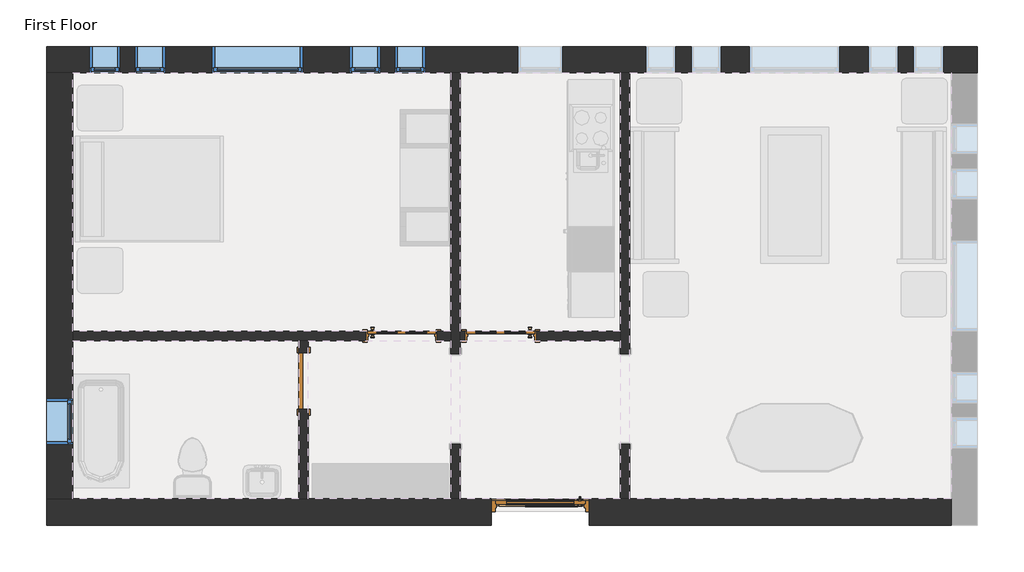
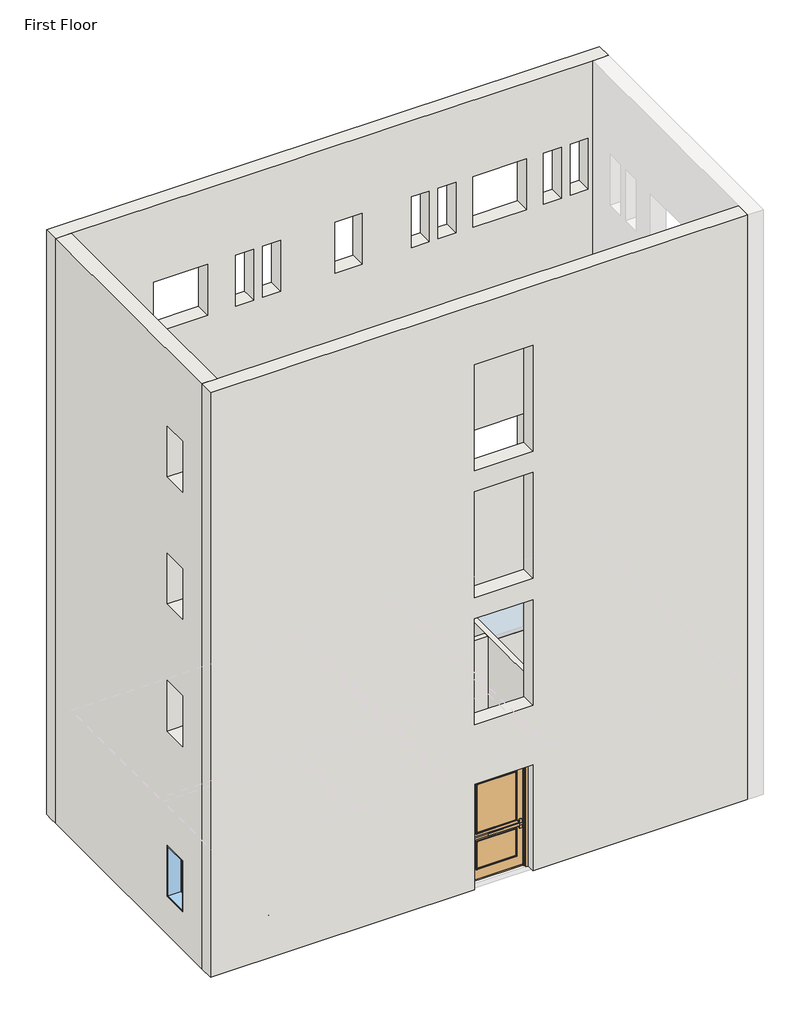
# One storey, part 1 of 2: 7 walls, 6 windows, 4 doors.
"""IFC4 building model written with IfcOpenShell, lengths in millimetres."""

from ifc_helpers import new_model, si_unit, frame, origin, place, context, project, spatial, polyline, outline, extrude, faceted_brep, transform, mapped, element, save
from components import door_734823c0, door_3a280f7b, door_48307b55, door_4d6c7550, window_da97879f, window_d61ef850, window_60baf983, window_6eb97611

model = new_model("IFC4")

# Units and contexts
model_context = context("Model", 3, world=origin())
ifc_project = project(units=[si_unit("LENGTHUNIT", "METRE", prefix="MILLI")], contexts=[model_context])

# Site, building, storey
site = spatial("IfcSite", under=ifc_project)
building = spatial("IfcBuilding", under=site)
storey = spatial("IfcBuildingStorey", under=building, Name="First Floor", Elevation=-914.4)

# Doors
placement = place(None, origin())
door_shape = door_734823c0(model_context)
element("IfcDoor", 1, ObjectType="Door-Exterior-Single-Two_Lite : 48\" x 96\"", at=placement, inside=storey, context=model_context, shape_type="MappedRepresentation", body=[
    mapped(door_shape, transform((-9720.1844712, 1685.5066174, -914.4), x_axis=(-1.0, 0.0, 0.0), y_axis=(0.0, -1.0, 0.0), z_axis=(0.0, 0.0, 1.0))),
])
door_2_shape = door_3a280f7b(model_context)
element("IfcDoor", 2, ObjectType="Door-Interior-Single-4_Panel-Wood : 36\" x 84\"", at=placement, inside=storey, context=model_context, shape_type="MappedRepresentation", body=[
    mapped(door_2_shape, transform((-10253.5844712, 4068.3441174, -914.4), x_axis=(-1.0, 0.0, 0.0), y_axis=(0.0, -1.0, 0.0), z_axis=(0.0, 0.0, 1.0))),
])
door_3_shape = door_48307b55(model_context)
element("IfcDoor", 3, ObjectType="Door-Interior-Single-4_Panel-Wood : 36\" x 84\"", at=placement, inside=storey, context=model_context, shape_type="MappedRepresentation", body=[
    mapped(door_3_shape, transform((-11588.6719712, 4068.3441174, -914.4), x_axis=(1.0, 0.0, 0.0), y_axis=(0.0, 1.0, 0.0), z_axis=(0.0, 0.0, 1.0))),
])
door_4_shape = door_4d6c7550(model_context)
element("IfcDoor", 4, ObjectType="Single-Flush : 30\" x 84\"", at=placement, inside=storey, context=model_context, shape_type="MappedRepresentation", body=[
    mapped(door_4_shape, transform((-12909.4719712, 3455.5691174, -914.4), x_axis=(0.0, 1.0, 0.0), y_axis=(-1.0, 0.0, 0.0), z_axis=(0.0, 0.0, 1.0))),
])

# Walls
element("IfcWall", 5, ObjectType="Exterior - Brick on Mtl. Stud", at=placement, inside=storey, context=model_context, shape_type="Brep", body=[
    faceted_brep([(-16373.3969712, 7611.6441174, -914.4), (-16186.0719712, 7611.6441174, -914.4), (-16020.9719712, 7611.6441174, -914.4), (-10926.6844712, 7611.6441174, -914.4), (-10799.6844712, 7611.6441174, -914.4), (-8640.6844712, 7611.6441174, -914.4), (-8513.6844712, 7611.6441174, -914.4), (-4181.3969712, 7611.6441174, -914.4), (-4016.2969712, 7611.6441174, -914.4), (-3828.9719712, 7611.6441174, -914.4), (-3828.9719712, 7611.6441174, 13106.4), (-4181.3969712, 7611.6441174, 13106.4), (-8513.6844712, 7611.6441174, 13106.4), (-8640.6844712, 7611.6441174, 13106.4), (-10799.6844712, 7611.6441174, 13106.4), (-10926.6844712, 7611.6441174, 13106.4), (-16020.9719712, 7611.6441174, 13106.4), (-16373.3969712, 7611.6441174, 13106.4), (-10024.9844712, 7611.6441174, 1219.2), (-9415.3844712, 7611.6441174, 1219.2), (-9415.3844712, 7611.6441174, 0.0), (-10024.9844712, 7611.6441174, 0.0), (-14139.7844712, 7611.6441174, 1219.2), (-12920.5844712, 7611.6441174, 1219.2), (-12920.5844712, 7611.6441174, 0.0), (-14139.7844712, 7611.6441174, 0.0), (-6900.7844712, 7611.6441174, 1219.2), (-5681.5844712, 7611.6441174, 1219.2), (-5681.5844712, 7611.6441174, 0.0), (-6900.7844712, 7611.6441174, 0.0), (-15790.7844712, 7611.6441174, 1219.2), (-15384.3844712, 7611.6441174, 1219.2), (-15384.3844712, 7611.6441174, 0.0), (-15790.7844712, 7611.6441174, 0.0), (-15181.1844712, 7611.6441174, 1219.2), (-14774.7844712, 7611.6441174, 1219.2), (-14774.7844712, 7611.6441174, 0.0), (-15181.1844712, 7611.6441174, 0.0), (-11879.1844712, 7611.6441174, 1219.2), (-11879.1844712, 7611.6441174, 0.0), (-12285.5844712, 7611.6441174, 0.0), (-12285.5844712, 7611.6441174, 1219.2), (-11269.5844712, 7611.6441174, 1219.2), (-11269.5844712, 7611.6441174, 0.0), (-11675.9844712, 7611.6441174, 0.0), (-11675.9844712, 7611.6441174, 1219.2), (-7688.1844712, 7611.6441174, 1219.2), (-7281.7844712, 7611.6441174, 1219.2), (-7281.7844712, 7611.6441174, 0.0), (-7688.1844712, 7611.6441174, 0.0), (-8297.7844712, 7611.6441174, 1219.2), (-7891.3844712, 7611.6441174, 1219.2), (-7891.3844712, 7611.6441174, 0.0), (-8297.7844712, 7611.6441174, 0.0), (-4894.1844712, 7611.6441174, 1219.2), (-4894.1844712, 7611.6441174, 0.0), (-5300.5844712, 7611.6441174, 0.0), (-5300.5844712, 7611.6441174, 1219.2), (-4284.5844712, 7611.6441174, 1219.2), (-4284.5844712, 7611.6441174, 0.0), (-4690.9844712, 7611.6441174, 0.0), (-4690.9844712, 7611.6441174, 1219.2), (-4894.1844712, 7611.6441174, 11277.6), (-4894.1844712, 7611.6441174, 10058.4), (-5300.5844712, 7611.6441174, 10058.4), (-5300.5844712, 7611.6441174, 11277.6), (-4284.5844712, 7611.6441174, 11277.6), (-4284.5844712, 7611.6441174, 10058.4), (-4690.9844712, 7611.6441174, 10058.4), (-4690.9844712, 7611.6441174, 11277.6), (-7688.1844712, 7611.6441174, 11277.6), (-7281.7844712, 7611.6441174, 11277.6), (-7281.7844712, 7611.6441174, 10058.4), (-7688.1844712, 7611.6441174, 10058.4), (-8297.7844712, 7611.6441174, 11277.6), (-7891.3844712, 7611.6441174, 11277.6), (-7891.3844712, 7611.6441174, 10058.4), (-8297.7844712, 7611.6441174, 10058.4), (-11879.1844712, 7611.6441174, 11277.6), (-11879.1844712, 7611.6441174, 10058.4), (-12285.5844712, 7611.6441174, 10058.4), (-12285.5844712, 7611.6441174, 11277.6), (-11269.5844712, 7611.6441174, 11277.6), (-11269.5844712, 7611.6441174, 10058.4), (-11675.9844712, 7611.6441174, 10058.4), (-11675.9844712, 7611.6441174, 11277.6), (-15181.1844712, 7611.6441174, 11277.6), (-14774.7844712, 7611.6441174, 11277.6), (-14774.7844712, 7611.6441174, 10058.4), (-15181.1844712, 7611.6441174, 10058.4), (-15790.7844712, 7611.6441174, 11277.6), (-15384.3844712, 7611.6441174, 11277.6), (-15384.3844712, 7611.6441174, 10058.4), (-15790.7844712, 7611.6441174, 10058.4), (-6900.7844712, 7611.6441174, 11277.6), (-5681.5844712, 7611.6441174, 11277.6), (-5681.5844712, 7611.6441174, 10058.4), (-6900.7844712, 7611.6441174, 10058.4), (-14139.7844712, 7611.6441174, 11277.6), (-12920.5844712, 7611.6441174, 11277.6), (-12920.5844712, 7611.6441174, 10058.4), (-14139.7844712, 7611.6441174, 10058.4), (-10024.9844712, 7611.6441174, 11277.6), (-9415.3844712, 7611.6441174, 11277.6), (-9415.3844712, 7611.6441174, 10058.4), (-10024.9844712, 7611.6441174, 10058.4), (-4894.1844712, 7611.6441174, 5181.6), (-4894.1844712, 7611.6441174, 3962.4), (-5300.5844712, 7611.6441174, 3962.4), (-5300.5844712, 7611.6441174, 5181.6), (-4284.5844712, 7611.6441174, 5181.6), (-4284.5844712, 7611.6441174, 3962.4), (-4690.9844712, 7611.6441174, 3962.4), (-4690.9844712, 7611.6441174, 5181.6), (-7688.1844712, 7611.6441174, 5181.6), (-7281.7844712, 7611.6441174, 5181.6), (-7281.7844712, 7611.6441174, 3962.4), (-7688.1844712, 7611.6441174, 3962.4), (-8297.7844712, 7611.6441174, 5181.6), (-7891.3844712, 7611.6441174, 5181.6), (-7891.3844712, 7611.6441174, 3962.4), (-8297.7844712, 7611.6441174, 3962.4), (-11879.1844712, 7611.6441174, 5181.6), (-11879.1844712, 7611.6441174, 3962.4), (-12285.5844712, 7611.6441174, 3962.4), (-12285.5844712, 7611.6441174, 5181.6), (-11269.5844712, 7611.6441174, 5181.6), (-11269.5844712, 7611.6441174, 3962.4), (-11675.9844712, 7611.6441174, 3962.4), (-11675.9844712, 7611.6441174, 5181.6), (-15181.1844712, 7611.6441174, 5181.6), (-14774.7844712, 7611.6441174, 5181.6), (-14774.7844712, 7611.6441174, 3962.4), (-15181.1844712, 7611.6441174, 3962.4), (-15790.7844712, 7611.6441174, 5181.6), (-15384.3844712, 7611.6441174, 5181.6), (-15384.3844712, 7611.6441174, 3962.4), (-15790.7844712, 7611.6441174, 3962.4), (-6900.7844712, 7611.6441174, 5181.6), (-5681.5844712, 7611.6441174, 5181.6), (-5681.5844712, 7611.6441174, 3962.4), (-6900.7844712, 7611.6441174, 3962.4), (-14139.7844712, 7611.6441174, 5181.6), (-12920.5844712, 7611.6441174, 5181.6), (-12920.5844712, 7611.6441174, 3962.4), (-14139.7844712, 7611.6441174, 3962.4), (-10024.9844712, 7611.6441174, 5181.6), (-9415.3844712, 7611.6441174, 5181.6), (-9415.3844712, 7611.6441174, 3962.4), (-10024.9844712, 7611.6441174, 3962.4), (-4894.1844712, 7611.6441174, 8229.6), (-4894.1844712, 7611.6441174, 7010.4), (-5300.5844712, 7611.6441174, 7010.4), (-5300.5844712, 7611.6441174, 8229.6), (-4284.5844712, 7611.6441174, 8229.6), (-4284.5844712, 7611.6441174, 7010.4), (-4690.9844712, 7611.6441174, 7010.4), (-4690.9844712, 7611.6441174, 8229.6), (-7688.1844712, 7611.6441174, 8229.6), (-7281.7844712, 7611.6441174, 8229.6), (-7281.7844712, 7611.6441174, 7010.4), (-7688.1844712, 7611.6441174, 7010.4), (-8297.7844712, 7611.6441174, 8229.6), (-7891.3844712, 7611.6441174, 8229.6), (-7891.3844712, 7611.6441174, 7010.4), (-8297.7844712, 7611.6441174, 7010.4), (-11879.1844712, 7611.6441174, 8229.6), (-11879.1844712, 7611.6441174, 7010.4), (-12285.5844712, 7611.6441174, 7010.4), (-12285.5844712, 7611.6441174, 8229.6), (-11269.5844712, 7611.6441174, 8229.6), (-11269.5844712, 7611.6441174, 7010.4), (-11675.9844712, 7611.6441174, 7010.4), (-11675.9844712, 7611.6441174, 8229.6), (-15181.1844712, 7611.6441174, 8229.6), (-14774.7844712, 7611.6441174, 8229.6), (-14774.7844712, 7611.6441174, 7010.4), (-15181.1844712, 7611.6441174, 7010.4), (-15790.7844712, 7611.6441174, 8229.6), (-15384.3844712, 7611.6441174, 8229.6), (-15384.3844712, 7611.6441174, 7010.4), (-15790.7844712, 7611.6441174, 7010.4), (-6900.7844712, 7611.6441174, 8229.6), (-5681.5844712, 7611.6441174, 8229.6), (-5681.5844712, 7611.6441174, 7010.4), (-6900.7844712, 7611.6441174, 7010.4), (-14139.7844712, 7611.6441174, 8229.6), (-12920.5844712, 7611.6441174, 8229.6), (-12920.5844712, 7611.6441174, 7010.4), (-14139.7844712, 7611.6441174, 7010.4), (-10024.9844712, 7611.6441174, 8229.6), (-9415.3844712, 7611.6441174, 8229.6), (-9415.3844712, 7611.6441174, 7010.4), (-10024.9844712, 7611.6441174, 7010.4), (-16373.3969712, 7964.0691174, -914.4), (-16373.3969712, 7964.0691174, 13106.4), (-3828.9719712, 7964.0691174, 13106.4), (-3828.9719712, 7964.0691174, -914.4), (-4016.2969712, 7964.0691174, -914.4), (-16186.0719712, 7964.0691174, -914.4), (-10024.9844712, 7964.0691174, 1219.2), (-10024.9844712, 7964.0691174, 0.0), (-9415.3844712, 7964.0691174, 0.0), (-9415.3844712, 7964.0691174, 1219.2), (-14139.7844712, 7964.0691174, 1219.2), (-14139.7844712, 7964.0691174, 0.0), (-12920.5844712, 7964.0691174, 0.0), (-12920.5844712, 7964.0691174, 1219.2), (-6900.7844712, 7964.0691174, 1219.2), (-6900.7844712, 7964.0691174, 0.0), (-5681.5844712, 7964.0691174, 0.0), (-5681.5844712, 7964.0691174, 1219.2), (-15790.7844712, 7964.0691174, 1219.2), (-15790.7844712, 7964.0691174, 0.0), (-15384.3844712, 7964.0691174, 0.0), (-15384.3844712, 7964.0691174, 1219.2), (-15181.1844712, 7964.0691174, 1219.2), (-15181.1844712, 7964.0691174, 0.0), (-14774.7844712, 7964.0691174, 0.0), (-14774.7844712, 7964.0691174, 1219.2), (-11879.1844712, 7964.0691174, 1219.2), (-12285.5844712, 7964.0691174, 1219.2), (-12285.5844712, 7964.0691174, 0.0), (-11879.1844712, 7964.0691174, 0.0), (-11269.5844712, 7964.0691174, 1219.2), (-11675.9844712, 7964.0691174, 1219.2), (-11675.9844712, 7964.0691174, 0.0), (-11269.5844712, 7964.0691174, 0.0), (-7688.1844712, 7964.0691174, 1219.2), (-7688.1844712, 7964.0691174, 0.0), (-7281.7844712, 7964.0691174, 0.0), (-7281.7844712, 7964.0691174, 1219.2), (-8297.7844712, 7964.0691174, 1219.2), (-8297.7844712, 7964.0691174, 0.0), (-7891.3844712, 7964.0691174, 0.0), (-7891.3844712, 7964.0691174, 1219.2), (-4894.1844712, 7964.0691174, 1219.2), (-5300.5844712, 7964.0691174, 1219.2), (-5300.5844712, 7964.0691174, 0.0), (-4894.1844712, 7964.0691174, 0.0), (-4284.5844712, 7964.0691174, 1219.2), (-4690.9844712, 7964.0691174, 1219.2), (-4690.9844712, 7964.0691174, 0.0), (-4284.5844712, 7964.0691174, 0.0), (-4894.1844712, 7964.0691174, 11277.6), (-5300.5844712, 7964.0691174, 11277.6), (-5300.5844712, 7964.0691174, 10058.4), (-4894.1844712, 7964.0691174, 10058.4), (-4284.5844712, 7964.0691174, 11277.6), (-4690.9844712, 7964.0691174, 11277.6), (-4690.9844712, 7964.0691174, 10058.4), (-4284.5844712, 7964.0691174, 10058.4), (-7688.1844712, 7964.0691174, 11277.6), (-7688.1844712, 7964.0691174, 10058.4), (-7281.7844712, 7964.0691174, 10058.4), (-7281.7844712, 7964.0691174, 11277.6), (-8297.7844712, 7964.0691174, 11277.6), (-8297.7844712, 7964.0691174, 10058.4), (-7891.3844712, 7964.0691174, 10058.4), (-7891.3844712, 7964.0691174, 11277.6), (-11879.1844712, 7964.0691174, 11277.6), (-12285.5844712, 7964.0691174, 11277.6), (-12285.5844712, 7964.0691174, 10058.4), (-11879.1844712, 7964.0691174, 10058.4), (-11269.5844712, 7964.0691174, 11277.6), (-11675.9844712, 7964.0691174, 11277.6), (-11675.9844712, 7964.0691174, 10058.4), (-11269.5844712, 7964.0691174, 10058.4), (-15181.1844712, 7964.0691174, 11277.6), (-15181.1844712, 7964.0691174, 10058.4), (-14774.7844712, 7964.0691174, 10058.4), (-14774.7844712, 7964.0691174, 11277.6), (-15790.7844712, 7964.0691174, 11277.6), (-15790.7844712, 7964.0691174, 10058.4), (-15384.3844712, 7964.0691174, 10058.4), (-15384.3844712, 7964.0691174, 11277.6), (-6900.7844712, 7964.0691174, 11277.6), (-6900.7844712, 7964.0691174, 10058.4), (-5681.5844712, 7964.0691174, 10058.4), (-5681.5844712, 7964.0691174, 11277.6), (-14139.7844712, 7964.0691174, 11277.6), (-14139.7844712, 7964.0691174, 10058.4), (-12920.5844712, 7964.0691174, 10058.4), (-12920.5844712, 7964.0691174, 11277.6), (-10024.9844712, 7964.0691174, 11277.6), (-10024.9844712, 7964.0691174, 10058.4), (-9415.3844712, 7964.0691174, 10058.4), (-9415.3844712, 7964.0691174, 11277.6), (-4894.1844712, 7964.0691174, 5181.6), (-5300.5844712, 7964.0691174, 5181.6), (-5300.5844712, 7964.0691174, 3962.4), (-4894.1844712, 7964.0691174, 3962.4), (-4284.5844712, 7964.0691174, 5181.6), (-4690.9844712, 7964.0691174, 5181.6), (-4690.9844712, 7964.0691174, 3962.4), (-4284.5844712, 7964.0691174, 3962.4), (-7688.1844712, 7964.0691174, 5181.6), (-7688.1844712, 7964.0691174, 3962.4), (-7281.7844712, 7964.0691174, 3962.4), (-7281.7844712, 7964.0691174, 5181.6), (-8297.7844712, 7964.0691174, 5181.6), (-8297.7844712, 7964.0691174, 3962.4), (-7891.3844712, 7964.0691174, 3962.4), (-7891.3844712, 7964.0691174, 5181.6), (-11879.1844712, 7964.0691174, 5181.6), (-12285.5844712, 7964.0691174, 5181.6), (-12285.5844712, 7964.0691174, 3962.4), (-11879.1844712, 7964.0691174, 3962.4), (-11269.5844712, 7964.0691174, 5181.6), (-11675.9844712, 7964.0691174, 5181.6), (-11675.9844712, 7964.0691174, 3962.4), (-11269.5844712, 7964.0691174, 3962.4), (-15181.1844712, 7964.0691174, 5181.6), (-15181.1844712, 7964.0691174, 3962.4), (-14774.7844712, 7964.0691174, 3962.4), (-14774.7844712, 7964.0691174, 5181.6), (-15790.7844712, 7964.0691174, 5181.6), (-15790.7844712, 7964.0691174, 3962.4), (-15384.3844712, 7964.0691174, 3962.4), (-15384.3844712, 7964.0691174, 5181.6), (-6900.7844712, 7964.0691174, 5181.6), (-6900.7844712, 7964.0691174, 3962.4), (-5681.5844712, 7964.0691174, 3962.4), (-5681.5844712, 7964.0691174, 5181.6), (-14139.7844712, 7964.0691174, 5181.6), (-14139.7844712, 7964.0691174, 3962.4), (-12920.5844712, 7964.0691174, 3962.4), (-12920.5844712, 7964.0691174, 5181.6), (-10024.9844712, 7964.0691174, 5181.6), (-10024.9844712, 7964.0691174, 3962.4), (-9415.3844712, 7964.0691174, 3962.4), (-9415.3844712, 7964.0691174, 5181.6), (-4894.1844712, 7964.0691174, 8229.6), (-5300.5844712, 7964.0691174, 8229.6), (-5300.5844712, 7964.0691174, 7010.4), (-4894.1844712, 7964.0691174, 7010.4), (-4284.5844712, 7964.0691174, 8229.6), (-4690.9844712, 7964.0691174, 8229.6), (-4690.9844712, 7964.0691174, 7010.4), (-4284.5844712, 7964.0691174, 7010.4), (-7688.1844712, 7964.0691174, 8229.6), (-7688.1844712, 7964.0691174, 7010.4), (-7281.7844712, 7964.0691174, 7010.4), (-7281.7844712, 7964.0691174, 8229.6), (-8297.7844712, 7964.0691174, 8229.6), (-8297.7844712, 7964.0691174, 7010.4), (-7891.3844712, 7964.0691174, 7010.4), (-7891.3844712, 7964.0691174, 8229.6), (-11879.1844712, 7964.0691174, 8229.6), (-12285.5844712, 7964.0691174, 8229.6), (-12285.5844712, 7964.0691174, 7010.4), (-11879.1844712, 7964.0691174, 7010.4), (-11269.5844712, 7964.0691174, 8229.6), (-11675.9844712, 7964.0691174, 8229.6), (-11675.9844712, 7964.0691174, 7010.4), (-11269.5844712, 7964.0691174, 7010.4), (-15181.1844712, 7964.0691174, 8229.6), (-15181.1844712, 7964.0691174, 7010.4), (-14774.7844712, 7964.0691174, 7010.4), (-14774.7844712, 7964.0691174, 8229.6), (-15790.7844712, 7964.0691174, 8229.6), (-15790.7844712, 7964.0691174, 7010.4), (-15384.3844712, 7964.0691174, 7010.4), (-15384.3844712, 7964.0691174, 8229.6), (-6900.7844712, 7964.0691174, 8229.6), (-6900.7844712, 7964.0691174, 7010.4), (-5681.5844712, 7964.0691174, 7010.4), (-5681.5844712, 7964.0691174, 8229.6), (-14139.7844712, 7964.0691174, 8229.6), (-14139.7844712, 7964.0691174, 7010.4), (-12920.5844712, 7964.0691174, 7010.4), (-12920.5844712, 7964.0691174, 8229.6), (-10024.9844712, 7964.0691174, 8229.6), (-10024.9844712, 7964.0691174, 7010.4), (-9415.3844712, 7964.0691174, 7010.4), (-9415.3844712, 7964.0691174, 8229.6), (-3828.9719712, 7776.7441174, -914.4), (-16373.3969712, 7776.7441174, -914.4), (-16186.0719712, 7776.7441174, -914.4), (-4016.2969712, 7776.7441174, -914.4)], [[[0, 1, 2, 3, 4, 5, 6, 7, 8, 9, 10, 11, 12, 13, 14, 15, 16, 17], [18, 19, 20, 21], [22, 23, 24, 25], [26, 27, 28, 29], [30, 31, 32, 33], [34, 35, 36, 37], [38, 39, 40, 41], [42, 43, 44, 45], [46, 47, 48, 49], [50, 51, 52, 53], [54, 55, 56, 57], [58, 59, 60, 61], [62, 63, 64, 65], [66, 67, 68, 69], [70, 71, 72, 73], [74, 75, 76, 77], [78, 79, 80, 81], [82, 83, 84, 85], [86, 87, 88, 89], [90, 91, 92, 93], [94, 95, 96, 97], [98, 99, 100, 101], [102, 103, 104, 105], [106, 107, 108, 109], [110, 111, 112, 113], [114, 115, 116, 117], [118, 119, 120, 121], [122, 123, 124, 125], [126, 127, 128, 129], [130, 131, 132, 133], [134, 135, 136, 137], [138, 139, 140, 141], [142, 143, 144, 145], [146, 147, 148, 149], [150, 151, 152, 153], [154, 155, 156, 157], [158, 159, 160, 161], [162, 163, 164, 165], [166, 167, 168, 169], [170, 171, 172, 173], [174, 175, 176, 177], [178, 179, 180, 181], [182, 183, 184, 185], [186, 187, 188, 189], [190, 191, 192, 193]], [[194, 195, 196, 197, 198, 199], [200, 201, 202, 203], [204, 205, 206, 207], [208, 209, 210, 211], [212, 213, 214, 215], [216, 217, 218, 219], [220, 221, 222, 223], [224, 225, 226, 227], [228, 229, 230, 231], [232, 233, 234, 235], [236, 237, 238, 239], [240, 241, 242, 243], [244, 245, 246, 247], [248, 249, 250, 251], [252, 253, 254, 255], [256, 257, 258, 259], [260, 261, 262, 263], [264, 265, 266, 267], [268, 269, 270, 271], [272, 273, 274, 275], [276, 277, 278, 279], [280, 281, 282, 283], [284, 285, 286, 287], [288, 289, 290, 291], [292, 293, 294, 295], [296, 297, 298, 299], [300, 301, 302, 303], [304, 305, 306, 307], [308, 309, 310, 311], [312, 313, 314, 315], [316, 317, 318, 319], [320, 321, 322, 323], [324, 325, 326, 327], [328, 329, 330, 331], [332, 333, 334, 335], [336, 337, 338, 339], [340, 341, 342, 343], [344, 345, 346, 347], [348, 349, 350, 351], [352, 353, 354, 355], [356, 357, 358, 359], [360, 361, 362, 363], [364, 365, 366, 367], [368, 369, 370, 371], [372, 373, 374, 375]], [[17, 16, 15, 14, 13, 12, 11, 10, 196, 195]], [[10, 9, 376, 197, 196]], [[0, 17, 195, 194, 377]], [[201, 200, 18, 21]], [[202, 201, 21, 20]], [[203, 202, 20, 19]], [[200, 203, 19, 18]], [[205, 204, 22, 25]], [[206, 205, 25, 24]], [[207, 206, 24, 23]], [[204, 207, 23, 22]], [[209, 208, 26, 29]], [[210, 209, 29, 28]], [[211, 210, 28, 27]], [[208, 211, 27, 26]], [[213, 212, 30, 33]], [[214, 213, 33, 32]], [[215, 214, 32, 31]], [[212, 215, 31, 30]], [[217, 216, 34, 37]], [[218, 217, 37, 36]], [[219, 218, 36, 35]], [[216, 219, 35, 34]], [[39, 38, 220, 223]], [[40, 39, 223, 222]], [[41, 40, 222, 221]], [[38, 41, 221, 220]], [[43, 42, 224, 227]], [[44, 43, 227, 226]], [[45, 44, 226, 225]], [[42, 45, 225, 224]], [[229, 228, 46, 49]], [[230, 229, 49, 48]], [[231, 230, 48, 47]], [[228, 231, 47, 46]], [[233, 232, 50, 53]], [[234, 233, 53, 52]], [[235, 234, 52, 51]], [[232, 235, 51, 50]], [[55, 54, 236, 239]], [[56, 55, 239, 238]], [[57, 56, 238, 237]], [[54, 57, 237, 236]], [[59, 58, 240, 243]], [[60, 59, 243, 242]], [[61, 60, 242, 241]], [[58, 61, 241, 240]], [[1, 0, 377, 378]], [[377, 194, 199, 378]], [[9, 8, 379, 376]], [[199, 198, 379, 378]], [[198, 197, 376, 379]], [[8, 7, 6, 5, 4, 3, 2, 1, 378, 379]], [[63, 62, 244, 247]], [[64, 63, 247, 246]], [[65, 64, 246, 245]], [[62, 65, 245, 244]], [[67, 66, 248, 251]], [[68, 67, 251, 250]], [[69, 68, 250, 249]], [[66, 69, 249, 248]], [[253, 252, 70, 73]], [[254, 253, 73, 72]], [[255, 254, 72, 71]], [[252, 255, 71, 70]], [[257, 256, 74, 77]], [[258, 257, 77, 76]], [[259, 258, 76, 75]], [[256, 259, 75, 74]], [[79, 78, 260, 263]], [[80, 79, 263, 262]], [[81, 80, 262, 261]], [[78, 81, 261, 260]], [[83, 82, 264, 267]], [[84, 83, 267, 266]], [[85, 84, 266, 265]], [[82, 85, 265, 264]], [[269, 268, 86, 89]], [[270, 269, 89, 88]], [[271, 270, 88, 87]], [[268, 271, 87, 86]], [[273, 272, 90, 93]], [[274, 273, 93, 92]], [[275, 274, 92, 91]], [[272, 275, 91, 90]], [[277, 276, 94, 97]], [[278, 277, 97, 96]], [[279, 278, 96, 95]], [[276, 279, 95, 94]], [[281, 280, 98, 101]], [[282, 281, 101, 100]], [[283, 282, 100, 99]], [[280, 283, 99, 98]], [[285, 284, 102, 105]], [[286, 285, 105, 104]], [[287, 286, 104, 103]], [[284, 287, 103, 102]], [[107, 106, 288, 291]], [[108, 107, 291, 290]], [[109, 108, 290, 289]], [[106, 109, 289, 288]], [[111, 110, 292, 295]], [[112, 111, 295, 294]], [[113, 112, 294, 293]], [[110, 113, 293, 292]], [[297, 296, 114, 117]], [[298, 297, 117, 116]], [[299, 298, 116, 115]], [[296, 299, 115, 114]], [[301, 300, 118, 121]], [[302, 301, 121, 120]], [[303, 302, 120, 119]], [[300, 303, 119, 118]], [[123, 122, 304, 307]], [[124, 123, 307, 306]], [[125, 124, 306, 305]], [[122, 125, 305, 304]], [[127, 126, 308, 311]], [[128, 127, 311, 310]], [[129, 128, 310, 309]], [[126, 129, 309, 308]], [[313, 312, 130, 133]], [[314, 313, 133, 132]], [[315, 314, 132, 131]], [[312, 315, 131, 130]], [[317, 316, 134, 137]], [[318, 317, 137, 136]], [[319, 318, 136, 135]], [[316, 319, 135, 134]], [[321, 320, 138, 141]], [[322, 321, 141, 140]], [[323, 322, 140, 139]], [[320, 323, 139, 138]], [[325, 324, 142, 145]], [[326, 325, 145, 144]], [[327, 326, 144, 143]], [[324, 327, 143, 142]], [[329, 328, 146, 149]], [[330, 329, 149, 148]], [[331, 330, 148, 147]], [[328, 331, 147, 146]], [[151, 150, 332, 335]], [[152, 151, 335, 334]], [[153, 152, 334, 333]], [[150, 153, 333, 332]], [[155, 154, 336, 339]], [[156, 155, 339, 338]], [[157, 156, 338, 337]], [[154, 157, 337, 336]], [[341, 340, 158, 161]], [[342, 341, 161, 160]], [[343, 342, 160, 159]], [[340, 343, 159, 158]], [[345, 344, 162, 165]], [[346, 345, 165, 164]], [[347, 346, 164, 163]], [[344, 347, 163, 162]], [[167, 166, 348, 351]], [[168, 167, 351, 350]], [[169, 168, 350, 349]], [[166, 169, 349, 348]], [[171, 170, 352, 355]], [[172, 171, 355, 354]], [[173, 172, 354, 353]], [[170, 173, 353, 352]], [[357, 356, 174, 177]], [[358, 357, 177, 176]], [[359, 358, 176, 175]], [[356, 359, 175, 174]], [[361, 360, 178, 181]], [[362, 361, 181, 180]], [[363, 362, 180, 179]], [[360, 363, 179, 178]], [[365, 364, 182, 185]], [[366, 365, 185, 184]], [[367, 366, 184, 183]], [[364, 367, 183, 182]], [[369, 368, 186, 189]], [[370, 369, 189, 188]], [[371, 370, 188, 187]], [[368, 371, 187, 186]], [[373, 372, 190, 193]], [[374, 373, 193, 192]], [[375, 374, 192, 191]], [[372, 375, 191, 190]]]),
])
element("IfcWall", 6, ObjectType="Exterior - Brick on Mtl. Stud", at=placement, inside=storey, context=model_context, shape_type="Brep", body=[
    faceted_brep([(-16373.3969712, 1868.0691174, 13106.4), (-16020.9719712, 1868.0691174, 13106.4), (-12972.9719712, 1868.0691174, 13106.4), (-12845.9719712, 1868.0691174, 13106.4), (-10926.6844712, 1868.0691174, 13106.4), (-10799.6844712, 1868.0691174, 13106.4), (-8640.6844712, 1868.0691174, 13106.4), (-8513.6844712, 1868.0691174, 13106.4), (-4181.3969712, 1868.0691174, 13106.4), (-4181.3969712, 1868.0691174, -914.4), (-8513.6844712, 1868.0691174, -914.4), (-8640.6844712, 1868.0691174, -914.4), (-9059.7844712, 1868.0691174, -914.4), (-9059.7844712, 1868.0691174, 1625.6), (-10380.5844712, 1868.0691174, 1625.6), (-10380.5844712, 1868.0691174, -914.4), (-10799.6844712, 1868.0691174, -914.4), (-10926.6844712, 1868.0691174, -914.4), (-12845.9719712, 1868.0691174, -914.4), (-12972.9719712, 1868.0691174, -914.4), (-16020.9719712, 1868.0691174, -914.4), (-16373.3969712, 1868.0691174, -914.4), (-10380.5844712, 1868.0691174, 9144.0), (-9059.7844712, 1868.0691174, 9144.0), (-9059.7844712, 1868.0691174, 11684.0), (-10380.5844712, 1868.0691174, 11684.0), (-10380.5844712, 1868.0691174, 3048.0), (-9059.7844712, 1868.0691174, 3048.0), (-9059.7844712, 1868.0691174, 5588.0), (-10380.5844712, 1868.0691174, 5588.0), (-10380.5844712, 1868.0691174, 6096.0), (-9059.7844712, 1868.0691174, 6096.0), (-9059.7844712, 1868.0691174, 8636.0), (-10380.5844712, 1868.0691174, 8636.0), (-4181.3969712, 1515.6441174, 13106.4), (-16373.3969712, 1515.6441174, 13106.4), (-16373.3969712, 1515.6441174, -914.4), (-10380.5844712, 1515.6441174, -914.4), (-10380.5844712, 1515.6441174, 1625.6), (-9059.7844712, 1515.6441174, 1625.6), (-9059.7844712, 1515.6441174, -914.4), (-4181.3969712, 1515.6441174, -914.4), (-10380.5844712, 1515.6441174, 9144.0), (-10380.5844712, 1515.6441174, 11684.0), (-9059.7844712, 1515.6441174, 11684.0), (-9059.7844712, 1515.6441174, 9144.0), (-10380.5844712, 1515.6441174, 3048.0), (-10380.5844712, 1515.6441174, 5588.0), (-9059.7844712, 1515.6441174, 5588.0), (-9059.7844712, 1515.6441174, 3048.0), (-10380.5844712, 1515.6441174, 6096.0), (-10380.5844712, 1515.6441174, 8636.0), (-9059.7844712, 1515.6441174, 8636.0), (-9059.7844712, 1515.6441174, 6096.0)], [[[0, 1, 2, 3, 4, 5, 6, 7, 8, 9, 10, 11, 12, 13, 14, 15, 16, 17, 18, 19, 20, 21], [22, 23, 24, 25], [26, 27, 28, 29], [30, 31, 32, 33]], [[34, 35, 36, 37, 38, 39, 40, 41], [42, 43, 44, 45], [46, 47, 48, 49], [50, 51, 52, 53]], [[9, 41, 40, 12, 11, 10]], [[36, 21, 20, 19, 18, 17, 16, 15, 37]], [[8, 7, 6, 5, 4, 3, 2, 1, 0, 35, 34]], [[9, 8, 34, 41]], [[0, 21, 36, 35]], [[14, 38, 37, 15]], [[38, 14, 13, 39]], [[39, 13, 12, 40]], [[43, 42, 22, 25]], [[44, 43, 25, 24]], [[45, 44, 24, 23]], [[42, 45, 23, 22]], [[47, 46, 26, 29]], [[48, 47, 29, 28]], [[49, 48, 28, 27]], [[46, 49, 27, 26]], [[51, 50, 30, 33]], [[52, 51, 33, 32]], [[53, 52, 32, 31]], [[50, 53, 31, 30]]]),
])
element("IfcWall", 7, ObjectType="Exterior - Brick on Mtl. Stud", at=placement, inside=storey, context=model_context, shape_type="Brep", body=[
    faceted_brep([(-16020.9719712, 1868.0691174, -914.4), (-16020.9719712, 4001.6691174, -914.4), (-16020.9719712, 4128.6691174, -914.4), (-16020.9719712, 7611.6441174, -914.4), (-16020.9719712, 7611.6441174, 13106.4), (-16020.9719712, 4128.6691174, 13106.4), (-16020.9719712, 4001.6691174, 13106.4), (-16020.9719712, 1868.0691174, 13106.4), (-16020.9719712, 2606.2566174, 1219.2), (-16020.9719712, 3215.8566174, 1219.2), (-16020.9719712, 3215.8566174, 0.0), (-16020.9719712, 2606.2566174, 0.0), (-16020.9719712, 2606.2566174, 11277.6), (-16020.9719712, 3215.8566174, 11277.6), (-16020.9719712, 3215.8566174, 10058.4), (-16020.9719712, 2606.2566174, 10058.4), (-16020.9719712, 2606.2566174, 5181.6), (-16020.9719712, 3215.8566174, 5181.6), (-16020.9719712, 3215.8566174, 3962.4), (-16020.9719712, 2606.2566174, 3962.4), (-16020.9719712, 2606.2566174, 8229.6), (-16020.9719712, 3215.8566174, 8229.6), (-16020.9719712, 3215.8566174, 7010.4), (-16020.9719712, 2606.2566174, 7010.4), (-16373.3969712, 1868.0691174, -914.4), (-16373.3969712, 1868.0691174, 13106.4), (-16373.3969712, 7611.6441174, 13106.4), (-16373.3969712, 7611.6441174, -914.4), (-16373.3969712, 2606.2566174, 1219.2), (-16373.3969712, 2606.2566174, 0.0), (-16373.3969712, 3215.8566174, 0.0), (-16373.3969712, 3215.8566174, 1219.2), (-16373.3969712, 2606.2566174, 11277.6), (-16373.3969712, 2606.2566174, 10058.4), (-16373.3969712, 3215.8566174, 10058.4), (-16373.3969712, 3215.8566174, 11277.6), (-16373.3969712, 2606.2566174, 5181.6), (-16373.3969712, 2606.2566174, 3962.4), (-16373.3969712, 3215.8566174, 3962.4), (-16373.3969712, 3215.8566174, 5181.6), (-16373.3969712, 2606.2566174, 8229.6), (-16373.3969712, 2606.2566174, 7010.4), (-16373.3969712, 3215.8566174, 7010.4), (-16373.3969712, 3215.8566174, 8229.6), (-16186.0719712, 1868.0691174, -914.4), (-16186.0719712, 7611.6441174, -914.4)], [[[0, 1, 2, 3, 4, 5, 6, 7], [8, 9, 10, 11], [12, 13, 14, 15], [16, 17, 18, 19], [20, 21, 22, 23]], [[24, 25, 26, 27], [28, 29, 30, 31], [32, 33, 34, 35], [36, 37, 38, 39], [40, 41, 42, 43]], [[7, 6, 5, 4, 26, 25]], [[0, 7, 25, 24, 44]], [[4, 3, 45, 27, 26]], [[29, 28, 8, 11]], [[30, 29, 11, 10]], [[31, 30, 10, 9]], [[28, 31, 9, 8]], [[44, 24, 27, 45]], [[3, 2, 1, 0, 44, 45]], [[33, 32, 12, 15]], [[34, 33, 15, 14]], [[35, 34, 14, 13]], [[32, 35, 13, 12]], [[37, 36, 16, 19]], [[38, 37, 19, 18]], [[39, 38, 18, 17]], [[36, 39, 17, 16]], [[41, 40, 20, 23]], [[42, 41, 23, 22]], [[43, 42, 22, 21]], [[40, 43, 21, 20]]]),
])
element("IfcWall", 8, ObjectType="Interior - 5\" Partition (2-hr)", at=placement, inside=storey, context=model_context, shape_type="Brep", body=[
    faceted_brep([(-8640.6844712, 7611.6441174, -914.4), (-8640.6844712, 4128.6691174, -914.4), (-8640.6844712, 4001.6691174, -914.4), (-8640.6844712, 3825.4566174, -914.4), (-8640.6844712, 3825.4566174, 1219.2), (-8640.6844712, 2606.2566174, 1219.2), (-8640.6844712, 2606.2566174, -914.4), (-8640.6844712, 1868.0691174, -914.4), (-8640.6844712, 1868.0691174, 3048.0), (-8640.6844712, 4001.6691174, 3048.0), (-8640.6844712, 4128.6691174, 3048.0), (-8640.6844712, 7611.6441174, 3048.0), (-8513.6844712, 3825.4566174, 1219.2), (-8513.6844712, 3825.4566174, -914.4), (-8513.6844712, 7611.6441174, -914.4), (-8513.6844712, 7611.6441174, 3048.0), (-8513.6844712, 1868.0691174, 3048.0), (-8513.6844712, 1868.0691174, -914.4), (-8513.6844712, 2606.2566174, -914.4), (-8513.6844712, 2606.2566174, 1219.2)], [[[0, 1, 2, 3, 4, 5, 6, 7, 8, 9, 10, 11]], [[12, 13, 14, 15, 16, 17, 18, 19]], [[18, 17, 7, 6]], [[14, 13, 3, 2, 1, 0]], [[11, 10, 9, 8, 16, 15]], [[0, 11, 15, 14]], [[8, 7, 17, 16]], [[6, 5, 19, 18]], [[4, 3, 13, 12]], [[5, 4, 12, 19]]]),
])
element("IfcWall", 9, ObjectType="Interior - 5\" Partition (2-hr)", at=placement, inside=storey, context=model_context, shape_type="Brep", body=[
    faceted_brep([(-10926.6844712, 7611.6441174, -914.4), (-10926.6844712, 4128.6691174, -914.4), (-10926.6844712, 4001.6691174, -914.4), (-10926.6844712, 3825.4566174, -914.4), (-10926.6844712, 3825.4566174, 1219.2), (-10926.6844712, 2606.2566174, 1219.2), (-10926.6844712, 2606.2566174, -914.4), (-10926.6844712, 1868.0691174, -914.4), (-10926.6844712, 1868.0691174, 3048.0), (-10926.6844712, 4001.6691174, 3048.0), (-10926.6844712, 4128.6691174, 3048.0), (-10926.6844712, 7611.6441174, 3048.0), (-10799.6844712, 3825.4566174, 1219.2), (-10799.6844712, 3825.4566174, -914.4), (-10799.6844712, 4001.6691174, -914.4), (-10799.6844712, 4128.6691174, -914.4), (-10799.6844712, 7611.6441174, -914.4), (-10799.6844712, 7611.6441174, 3048.0), (-10799.6844712, 4128.6691174, 3048.0), (-10799.6844712, 4001.6691174, 3048.0), (-10799.6844712, 1868.0691174, 3048.0), (-10799.6844712, 1868.0691174, -914.4), (-10799.6844712, 2606.2566174, -914.4), (-10799.6844712, 2606.2566174, 1219.2)], [[[0, 1, 2, 3, 4, 5, 6, 7, 8, 9, 10, 11]], [[12, 13, 14, 15, 16, 17, 18, 19, 20, 21, 22, 23]], [[22, 21, 7, 6]], [[16, 15, 14, 13, 3, 2, 1, 0]], [[11, 10, 9, 8, 20, 19, 18, 17]], [[0, 11, 17, 16]], [[8, 7, 21, 20]], [[6, 5, 23, 22]], [[4, 3, 13, 12]], [[5, 4, 12, 23]]]),
])
element("IfcWall", 10, ObjectType="Interior - 5\" Partition (2-hr)", at=placement, inside=storey, context=model_context, shape_type="Brep", body=[
    faceted_brep([(-16020.9719712, 4001.6691174, 3048.0), (-16020.9719712, 4001.6691174, -914.4), (-12972.9719712, 4001.6691174, -914.4), (-12845.9719712, 4001.6691174, -914.4), (-12071.2719712, 4001.6691174, -914.4), (-12071.2719712, 4001.6691174, 1244.6), (-11106.0719712, 4001.6691174, 1244.6), (-11106.0719712, 4001.6691174, -914.4), (-10926.6844712, 4001.6691174, -914.4), (-10926.6844712, 4001.6691174, 3048.0), (-12845.9719712, 4001.6691174, 3048.0), (-12972.9719712, 4001.6691174, 3048.0), (-16020.9719712, 4128.6691174, -914.4), (-16020.9719712, 4128.6691174, 3048.0), (-10926.6844712, 4128.6691174, 3048.0), (-10926.6844712, 4128.6691174, -914.4), (-11106.0719712, 4128.6691174, -914.4), (-11106.0719712, 4128.6691174, 1244.6), (-12071.2719712, 4128.6691174, 1244.6), (-12071.2719712, 4128.6691174, -914.4)], [[[0, 1, 2, 3, 4, 5, 6, 7, 8, 9, 10, 11]], [[12, 13, 14, 15, 16, 17, 18, 19]], [[1, 12, 19, 4, 3, 2]], [[7, 16, 15, 8]], [[13, 0, 11, 10, 9, 14]], [[1, 0, 13, 12]], [[9, 8, 15, 14]], [[6, 17, 16, 7]], [[17, 6, 5, 18]], [[18, 5, 4, 19]]]),
    faceted_brep([(-8640.6844712, 4001.6691174, -914.4), (-8640.6844712, 4001.6691174, 3048.0), (-10799.6844712, 4001.6691174, 3048.0), (-10799.6844712, 4001.6691174, -914.4), (-10736.1844712, 4001.6691174, -914.4), (-10736.1844712, 4001.6691174, 1244.6), (-9770.9844712, 4001.6691174, 1244.6), (-9770.9844712, 4001.6691174, -914.4), (-8640.6844712, 4128.6691174, 3048.0), (-8640.6844712, 4128.6691174, -914.4), (-9770.9844712, 4128.6691174, -914.4), (-9770.9844712, 4128.6691174, 1244.6), (-10736.1844712, 4128.6691174, 1244.6), (-10736.1844712, 4128.6691174, -914.4), (-10799.6844712, 4128.6691174, -914.4), (-10799.6844712, 4128.6691174, 3048.0)], [[[0, 1, 2, 3, 4, 5, 6, 7]], [[8, 9, 10, 11, 12, 13, 14, 15]], [[9, 0, 7, 10]], [[13, 4, 3, 14]], [[1, 8, 15, 2]], [[1, 0, 9, 8]], [[3, 2, 15, 14]], [[5, 4, 13, 12]], [[6, 5, 12, 11]], [[7, 6, 11, 10]]]),
])
element("IfcWall", 11, ObjectType="Interior - 5\" Partition (2-hr)", at=placement, inside=storey, context=model_context, shape_type="SweptSolid", body=[
    extrude(outline(polyline([(4001.6691174, -914.4), (3836.5691174, -914.4), (3836.5691174, 1219.2), (3074.5691174, 1219.2), (3074.5691174, -914.4), (1868.0691174, -914.4), (1868.0691174, 3048.0), (4001.6691174, 3048.0), (4001.6691174, -914.4)])), frame((-12972.9719712, 0.0, 0.0), z_axis=(1.0, 0.0, 0.0), x_axis=(0.0, 1.0, 0.0)), (0.0, 0.0, 1.0), 127.0),
])

# Windows
window_shape = window_da97879f(model_context)
element("IfcWindow", 12, ObjectType="Fixed : 16\" x 48\"", at=placement, inside=storey, context=model_context, shape_type="MappedRepresentation", body=[
    mapped(window_shape, transform((-15625.6844712, 7787.8566174, -914.4), x_axis=(-1.0, 0.0, 0.0), y_axis=(0.0, -1.0, 0.0), z_axis=(0.0, 0.0, 1.0))),
])
element("IfcWindow", 13, ObjectType="Fixed : 16\" x 48\"", at=placement, inside=storey, context=model_context, shape_type="MappedRepresentation", body=[
    mapped(window_shape, transform((-15016.0844712, 7787.8566174, -914.4), x_axis=(-1.0, 0.0, 0.0), y_axis=(0.0, -1.0, 0.0), z_axis=(0.0, 0.0, 1.0))),
])
window_2_shape = window_d61ef850(model_context)
element("IfcWindow", 14, ObjectType="Fixed : 16\" x 48\"", at=placement, inside=storey, context=model_context, shape_type="MappedRepresentation", body=[
    mapped(window_2_shape, transform((-11434.6844712, 7787.8566174, -914.4), x_axis=(1.0, 0.0, 0.0), y_axis=(0.0, 1.0, 0.0), z_axis=(0.0, 0.0, 1.0))),
])
element("IfcWindow", 15, ObjectType="Fixed : 16\" x 48\"", at=placement, inside=storey, context=model_context, shape_type="MappedRepresentation", body=[
    mapped(window_2_shape, transform((-12044.2844712, 7787.8566174, -914.4), x_axis=(1.0, 0.0, 0.0), y_axis=(0.0, 1.0, 0.0), z_axis=(0.0, 0.0, 1.0))),
])
window_3_shape = window_60baf983(model_context)
element("IfcWindow", 16, ObjectType="Fixed : 24\" x 48\"", at=placement, inside=storey, context=model_context, shape_type="MappedRepresentation", body=[
    mapped(window_3_shape, transform((-16197.1844712, 2872.9566174, -914.4), x_axis=(0.0, -1.0, 0.0), y_axis=(1.0, 0.0, 0.0), z_axis=(0.0, 0.0, 1.0))),
])
window_4_shape = window_6eb97611(model_context)
element("IfcWindow", 17, ObjectType="Fixed : 48\" x 48\"", at=placement, inside=storey, context=model_context, shape_type="MappedRepresentation", body=[
    mapped(window_4_shape, transform((-13568.2844712, 7787.8566174, -914.4), x_axis=(-1.0, 0.0, 0.0), y_axis=(0.0, -1.0, 0.0), z_axis=(0.0, 0.0, 1.0))),
])

save(model, "model.ifc")
